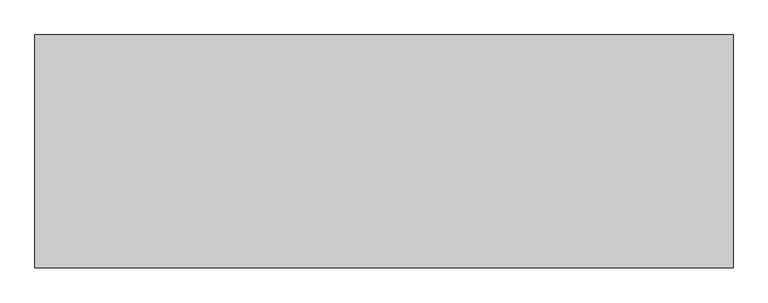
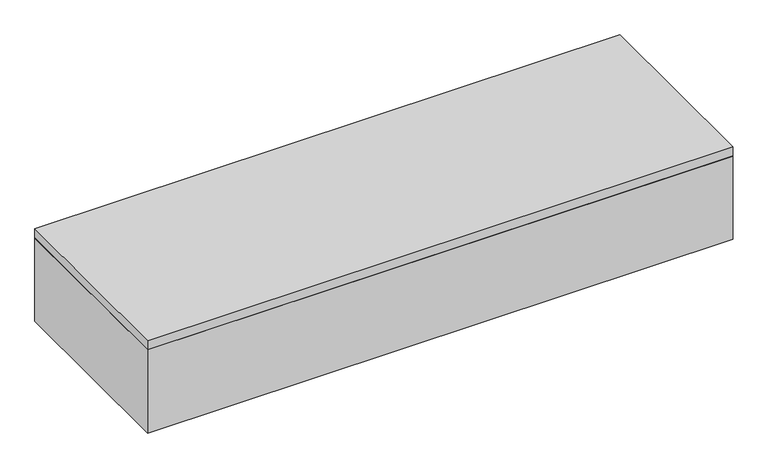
"""IFC4 building model written with IfcOpenShell, lengths in millimetres: furniture geometry, C11 Asiento Rectangulo : C11.1 Asiento rectangular 120x40x20."""

from ifc_helpers import new_model, si_unit, frame, origin, origin_with_axes, place, context, project, spatial, polyline, outline, extrude, source, transform, mapped, element, save


def furniture_6eccd7ec(model_context):
    return source(origin(), model_context, "Body", "SweptSolid", [
        extrude(outline(polyline([(750.0, 400.0), (750.0, 0.0), (-450.0, 0.0), (-450.0, 400.0), (750.0, 400.0)]), holes=[polyline([(730.0, 380.0), (-430.0, 380.0), (-430.0, 20.0), (730.0, 20.0), (730.0, 380.0)])]), origin_with_axes(), (0.0, 0.0, 1.0), 180.0),
        extrude(outline(polyline([(750.0, 400.0), (750.0, 0.0), (-450.0, 0.0), (-450.0, 400.0), (750.0, 400.0)])), frame((0.0, 0.0, 180.0), z_axis=(0.0, 0.0, 1.0), x_axis=(1.0, 0.0, 0.0)), (0.0, 0.0, 1.0), 20.0),
    ])


if __name__ == "__main__":
    model = new_model("IFC4")
    model_context = context("Model", 3, world=origin())
    ifc_project = project(units=[si_unit("LENGTHUNIT", "METRE", prefix="MILLI")], contexts=[model_context])
    site = spatial("IfcSite", under=ifc_project)
    building = spatial("IfcBuilding", under=site)
    placement = place(None, origin())
    furniture_shape = furniture_6eccd7ec(model_context)
    element("IfcFurniture", 1, ObjectType="C11 Asiento Rectangulo : C11.1 Asiento rectangular 120x40x20", at=placement, inside=building, context=model_context, shape_type="MappedRepresentation", body=[
        mapped(furniture_shape, transform((0.0, 0.0, 0.0), x_axis=(1.0, 0.0, 0.0), y_axis=(0.0, 1.0, 0.0), z_axis=(0.0, 0.0, 1.0))),
    ])
    save(model, "model.ifc")
